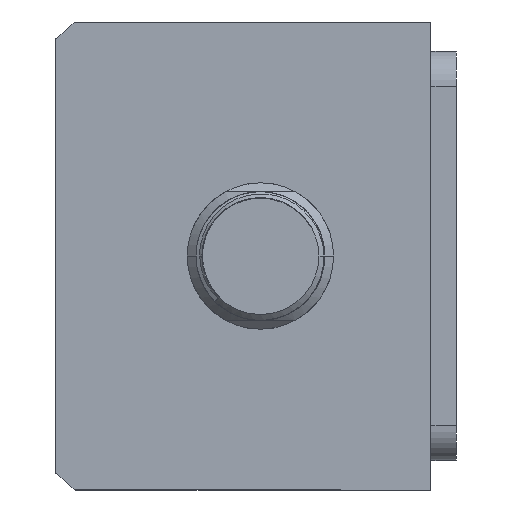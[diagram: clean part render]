
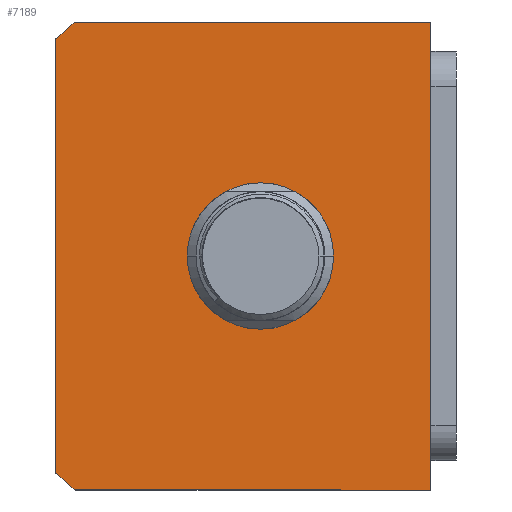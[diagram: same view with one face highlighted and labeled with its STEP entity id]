
A CAD part, front view. The second image highlights one B-rep face of the part: STEP entity #7189.
In plain terms, the highlighted planar face has unit normal (0, -1, 0) as drawn and (0, 0, -1) by its records, which use the part's own axes.
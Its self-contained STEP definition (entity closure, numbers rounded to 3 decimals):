
#544 = DIRECTION ( 'NONE',  ( -1., 0., 0. ) ) ;
#894 = CARTESIAN_POINT ( 'NONE',  ( 0., 3., 0. ) ) ;
#1053 = DIRECTION ( 'NONE',  ( 0., 0., 1. ) ) ;
#1260 = DIRECTION ( 'NONE',  ( 0., -1., 0. ) ) ;
#1380 = VECTOR ( 'NONE', #544, 1000. ) ;
#1739 = DIRECTION ( 'NONE',  ( 0., 1., 0. ) ) ;
#1921 = CARTESIAN_POINT ( 'NONE',  ( 40., -28.639, 0. ) ) ;
#1951 = VECTOR ( 'NONE', #1260, 1000. ) ;
#2036 = VECTOR ( 'NONE', #1739, 1000. ) ;
#2165 = DIRECTION ( 'NONE',  ( 0., 0., 1. ) ) ;
#2269 = EDGE_LOOP ( 'NONE', ( #11204, #13405 ) ) ;
#2293 = DIRECTION ( 'NONE',  ( 1., 0., 0. ) ) ;
#2359 = CARTESIAN_POINT ( 'NONE',  ( 0., 3., 0. ) ) ;
#2503 = AXIS2_PLACEMENT_3D ( 'NONE', #9298, #1053, #10670 ) ;
#2533 = EDGE_CURVE ( 'NONE', #4324, #2876, #11808, .T. ) ;
#2718 = VERTEX_POINT ( 'NONE', #9506 ) ;
#2741 = EDGE_CURVE ( 'NONE', #8846, #5943, #5606, .T. ) ;
#2876 = VERTEX_POINT ( 'NONE', #5589 ) ;
#3015 = CARTESIAN_POINT ( 'NONE',  ( 40., 32., 0. ) ) ;
#3262 = VECTOR ( 'NONE', #16281, 1000. ) ;
#3748 = DIRECTION ( 'NONE',  ( 1., 0., 0. ) ) ;
#3790 = CARTESIAN_POINT ( 'NONE',  ( 0., 3., 0. ) ) ;
#4070 = AXIS2_PLACEMENT_3D ( 'NONE', #4865, #2165, #11751 ) ;
#4089 = AXIS2_PLACEMENT_3D ( 'NONE', #3790, #13348, #5153 ) ;
#4324 = VERTEX_POINT ( 'NONE', #11473 ) ;
#4865 = CARTESIAN_POINT ( 'NONE',  ( 0., 0., 0. ) ) ;
#5047 = CIRCLE ( 'NONE', #12585, 51. ) ;
#5066 = CARTESIAN_POINT ( 'NONE',  ( -40., -28.639, 0. ) ) ;
#5153 = DIRECTION ( 'NONE',  ( 1., 0., 0. ) ) ;
#5589 = CARTESIAN_POINT ( 'NONE',  ( 12.5, 3., 0. ) ) ;
#5606 = LINE ( 'NONE', #10877, #1951 ) ;
#5698 = LINE ( 'NONE', #3015, #2036 ) ;
#5943 = VERTEX_POINT ( 'NONE', #5066 ) ;
#6081 = CARTESIAN_POINT ( 'NONE',  ( -37.094, -32., 0. ) ) ;
#6447 = ORIENTED_EDGE ( 'NONE', *, *, #10488, .F. ) ;
#6625 = ORIENTED_EDGE ( 'NONE', *, *, #9884, .F. ) ;
#7163 = AXIS2_PLACEMENT_3D ( 'NONE', #2359, #11943, #3748 ) ;
#7189 = ADVANCED_FACE ( 'NONE', ( #14441, #7611 ), #10390, .F. ) ;
#7610 = EDGE_CURVE ( 'NONE', #2718, #8846, #8264, .T. ) ;
#7611 = FACE_OUTER_BOUND ( 'NONE', #9311, .T. ) ;
#7634 = VERTEX_POINT ( 'NONE', #1921 ) ;
#8120 = CARTESIAN_POINT ( 'NONE',  ( -40., -32., 0. ) ) ;
#8264 = LINE ( 'NONE', #8773, #1380 ) ;
#8773 = CARTESIAN_POINT ( 'NONE',  ( -40., 32., 0. ) ) ;
#8846 = VERTEX_POINT ( 'NONE', #9712 ) ;
#9298 = CARTESIAN_POINT ( 'NONE',  ( 0., 3., 0. ) ) ;
#9311 = EDGE_LOOP ( 'NONE', ( #9963, #17001, #16067, #6447, #6625, #12087 ) ) ;
#9368 = VERTEX_POINT ( 'NONE', #14058 ) ;
#9506 = CARTESIAN_POINT ( 'NONE',  ( 40., 32., 0. ) ) ;
#9712 = CARTESIAN_POINT ( 'NONE',  ( -40., 32., 0. ) ) ;
#9884 = EDGE_CURVE ( 'NONE', #9368, #7634, #17222, .T. ) ;
#9963 = ORIENTED_EDGE ( 'NONE', *, *, #10150, .F. ) ;
#10009 = VERTEX_POINT ( 'NONE', #6081 ) ;
#10150 = EDGE_CURVE ( 'NONE', #5943, #10009, #5047, .T. ) ;
#10390 = PLANE ( 'NONE',  #4070 ) ;
#10488 = EDGE_CURVE ( 'NONE', #7634, #2718, #5698, .T. ) ;
#10512 = DIRECTION ( 'NONE',  ( 0., 0., 1. ) ) ;
#10670 = DIRECTION ( 'NONE',  ( 1., 0., 0. ) ) ;
#10877 = CARTESIAN_POINT ( 'NONE',  ( -40., 32., 0. ) ) ;
#11204 = ORIENTED_EDGE ( 'NONE', *, *, #14458, .T. ) ;
#11473 = CARTESIAN_POINT ( 'NONE',  ( -12.5, 3., 0. ) ) ;
#11751 = DIRECTION ( 'NONE',  ( 1., 0., 0. ) ) ;
#11808 = CIRCLE ( 'NONE', #7163, 12.5 ) ;
#11943 = DIRECTION ( 'NONE',  ( 0., 0., 1. ) ) ;
#12087 = ORIENTED_EDGE ( 'NONE', *, *, #16638, .F. ) ;
#12585 = AXIS2_PLACEMENT_3D ( 'NONE', #894, #10512, #2293 ) ;
#13348 = DIRECTION ( 'NONE',  ( 0., 0., 1. ) ) ;
#13405 = ORIENTED_EDGE ( 'NONE', *, *, #2533, .T. ) ;
#13528 = CIRCLE ( 'NONE', #4089, 12.5 ) ;
#14058 = CARTESIAN_POINT ( 'NONE',  ( 37.094, -32., 0. ) ) ;
#14441 = FACE_BOUND ( 'NONE', #2269, .T. ) ;
#14458 = EDGE_CURVE ( 'NONE', #2876, #4324, #13528, .T. ) ;
#16067 = ORIENTED_EDGE ( 'NONE', *, *, #7610, .F. ) ;
#16281 = DIRECTION ( 'NONE',  ( 1., 0., 0. ) ) ;
#16638 = EDGE_CURVE ( 'NONE', #10009, #9368, #17361, .T. ) ;
#17001 = ORIENTED_EDGE ( 'NONE', *, *, #2741, .F. ) ;
#17222 = CIRCLE ( 'NONE', #2503, 51. ) ;
#17361 = LINE ( 'NONE', #8120, #3262 ) ;
